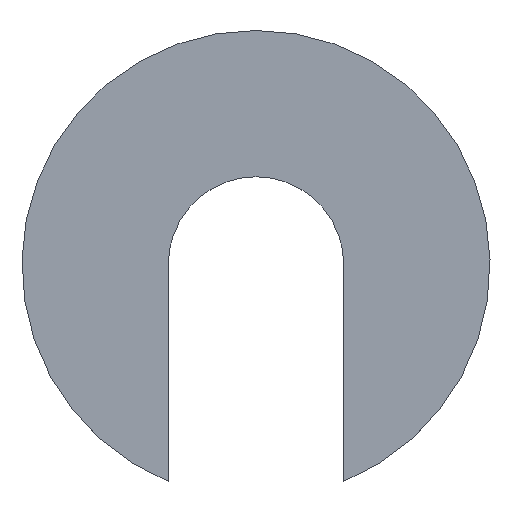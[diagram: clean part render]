
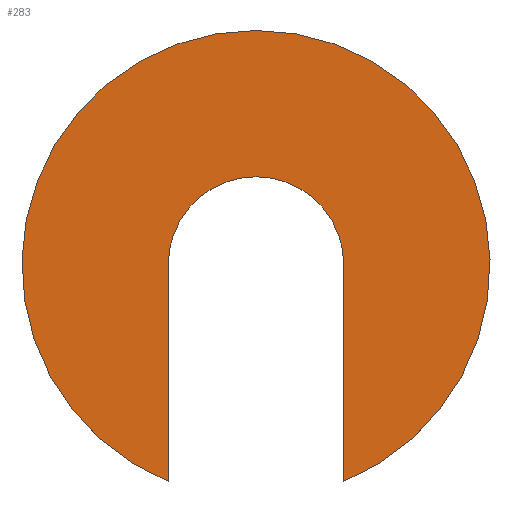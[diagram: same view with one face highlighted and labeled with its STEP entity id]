
A CAD part, top view. The second image highlights one B-rep face of the part: STEP entity #283.
In plain terms, the highlighted planar face has unit normal (0, 0, 1).
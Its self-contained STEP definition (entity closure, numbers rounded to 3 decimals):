
#33 = CYLINDRICAL_SURFACE('',#34,3.2);
#34 = AXIS2_PLACEMENT_3D('',#35,#36,#37);
#35 = CARTESIAN_POINT('',(84.75,13.,-6.));
#36 = DIRECTION('',(0.,0.,1.));
#37 = DIRECTION('',(1.,0.,-0.));
#58 = VERTEX_POINT('',#59);
#59 = CARTESIAN_POINT('',(83.55,10.034,-5.8));
#72 = PLANE('',#73);
#73 = AXIS2_PLACEMENT_3D('',#74,#75,#76);
#74 = CARTESIAN_POINT('',(83.55,8.8,-7.));
#75 = DIRECTION('',(1.,0.,-0.));
#76 = DIRECTION('',(0.,0.,1.));
#83 = EDGE_CURVE('',#58,#84,#86,.T.);
#84 = VERTEX_POINT('',#85);
#85 = CARTESIAN_POINT('',(85.95,10.034,-5.8));
#86 = SURFACE_CURVE('',#87,(#92,#99),.PCURVE_S1.);
#87 = CIRCLE('',#88,3.2);
#88 = AXIS2_PLACEMENT_3D('',#89,#90,#91);
#89 = CARTESIAN_POINT('',(84.75,13.,-5.8));
#90 = DIRECTION('',(-0.,0.,-1.));
#91 = DIRECTION('',(-0.375,-0.927,0.));
#92 = PCURVE('',#33,#93);
#93 = DEFINITIONAL_REPRESENTATION('',(#94),#98);
#94 = LINE('',#95,#96);
#95 = CARTESIAN_POINT('',(10.611,0.2));
#96 = VECTOR('',#97,1.);
#97 = DIRECTION('',(-1.,-0.));
#98 = ( GEOMETRIC_REPRESENTATION_CONTEXT(2) 
PARAMETRIC_REPRESENTATION_CONTEXT() REPRESENTATION_CONTEXT('2D SPACE',''
  ) );
#99 = PCURVE('',#100,#105);
#100 = PLANE('',#101);
#101 = AXIS2_PLACEMENT_3D('',#102,#103,#104);
#102 = CARTESIAN_POINT('',(84.75,13.,-5.8));
#103 = DIRECTION('',(0.,0.,1.));
#104 = DIRECTION('',(1.,0.,-0.));
#105 = DEFINITIONAL_REPRESENTATION('',(#106),#114);
#106 = ( BOUNDED_CURVE() B_SPLINE_CURVE(2,(#107,#108,#109,#110,#111,#112
,#113),.UNSPECIFIED.,.T.,.F.) B_SPLINE_CURVE_WITH_KNOTS((1,2,2,2,2,1),(
    -2.094,0.,2.094,4.189,6.283,
8.378),.UNSPECIFIED.) CURVE() GEOMETRIC_REPRESENTATION_ITEM() 
RATIONAL_B_SPLINE_CURVE((1.,0.5,1.,0.5,1.,0.5,1.)) REPRESENTATION_ITEM(
  '') );
#107 = CARTESIAN_POINT('',(-1.2,-2.966));
#108 = CARTESIAN_POINT('',(-6.338,-0.888));
#109 = CARTESIAN_POINT('',(-1.969,2.522));
#110 = CARTESIAN_POINT('',(2.4,5.933));
#111 = CARTESIAN_POINT('',(3.169,0.444));
#112 = CARTESIAN_POINT('',(3.938,-5.045));
#113 = CARTESIAN_POINT('',(-1.2,-2.966));
#114 = ( GEOMETRIC_REPRESENTATION_CONTEXT(2) 
PARAMETRIC_REPRESENTATION_CONTEXT() REPRESENTATION_CONTEXT('2D SPACE',''
  ) );
#129 = PLANE('',#130);
#130 = AXIS2_PLACEMENT_3D('',#131,#132,#133);
#131 = CARTESIAN_POINT('',(85.95,8.8,-7.));
#132 = DIRECTION('',(1.,0.,-0.));
#133 = DIRECTION('',(0.,0.,1.));
#146 = VERTEX_POINT('',#147);
#147 = CARTESIAN_POINT('',(85.95,13.,-5.8));
#161 = CYLINDRICAL_SURFACE('',#162,1.2);
#162 = AXIS2_PLACEMENT_3D('',#163,#164,#165);
#163 = CARTESIAN_POINT('',(84.75,13.,-7.));
#164 = DIRECTION('',(0.,0.,1.));
#165 = DIRECTION('',(1.,0.,-0.));
#172 = EDGE_CURVE('',#84,#146,#173,.T.);
#173 = SURFACE_CURVE('',#174,(#178,#184),.PCURVE_S1.);
#174 = LINE('',#175,#176);
#175 = CARTESIAN_POINT('',(85.95,10.9,-5.8));
#176 = VECTOR('',#177,1.);
#177 = DIRECTION('',(-0.,1.,0.));
#178 = PCURVE('',#129,#179);
#179 = DEFINITIONAL_REPRESENTATION('',(#180),#183);
#180 = B_SPLINE_CURVE_WITH_KNOTS('',1,(#181,#182),.UNSPECIFIED.,.F.,.F.,
  (2,2),(-1.1,2.1),.PIECEWISE_BEZIER_KNOTS.);
#181 = CARTESIAN_POINT('',(1.2,-1.));
#182 = CARTESIAN_POINT('',(1.2,-4.2));
#183 = ( GEOMETRIC_REPRESENTATION_CONTEXT(2) 
PARAMETRIC_REPRESENTATION_CONTEXT() REPRESENTATION_CONTEXT('2D SPACE',''
  ) );
#184 = PCURVE('',#100,#185);
#185 = DEFINITIONAL_REPRESENTATION('',(#186),#189);
#186 = B_SPLINE_CURVE_WITH_KNOTS('',1,(#187,#188),.UNSPECIFIED.,.F.,.F.,
  (2,2),(-1.1,2.1),.PIECEWISE_BEZIER_KNOTS.);
#187 = CARTESIAN_POINT('',(1.2,-3.2));
#188 = CARTESIAN_POINT('',(1.2,0.));
#189 = ( GEOMETRIC_REPRESENTATION_CONTEXT(2) 
PARAMETRIC_REPRESENTATION_CONTEXT() REPRESENTATION_CONTEXT('2D SPACE',''
  ) );
#214 = EDGE_CURVE('',#146,#215,#217,.T.);
#215 = VERTEX_POINT('',#216);
#216 = CARTESIAN_POINT('',(83.55,13.,-5.8));
#217 = SURFACE_CURVE('',#218,(#223,#230),.PCURVE_S1.);
#218 = CIRCLE('',#219,1.2);
#219 = AXIS2_PLACEMENT_3D('',#220,#221,#222);
#220 = CARTESIAN_POINT('',(84.75,13.,-5.8));
#221 = DIRECTION('',(0.,0.,1.));
#222 = DIRECTION('',(1.,0.,-0.));
#223 = PCURVE('',#161,#224);
#224 = DEFINITIONAL_REPRESENTATION('',(#225),#229);
#225 = LINE('',#226,#227);
#226 = CARTESIAN_POINT('',(0.,1.2));
#227 = VECTOR('',#228,1.);
#228 = DIRECTION('',(1.,0.));
#229 = ( GEOMETRIC_REPRESENTATION_CONTEXT(2) 
PARAMETRIC_REPRESENTATION_CONTEXT() REPRESENTATION_CONTEXT('2D SPACE',''
  ) );
#230 = PCURVE('',#100,#231);
#231 = DEFINITIONAL_REPRESENTATION('',(#232),#236);
#232 = CIRCLE('',#233,1.2);
#233 = AXIS2_PLACEMENT_2D('',#234,#235);
#234 = CARTESIAN_POINT('',(0.,0.));
#235 = DIRECTION('',(1.,0.));
#236 = ( GEOMETRIC_REPRESENTATION_CONTEXT(2) 
PARAMETRIC_REPRESENTATION_CONTEXT() REPRESENTATION_CONTEXT('2D SPACE',''
  ) );
#283 = ADVANCED_FACE('',(#284),#100,.T.);
#284 = FACE_BOUND('',#285,.T.);
#285 = EDGE_LOOP('',(#286,#287,#288,#307));
#286 = ORIENTED_EDGE('',*,*,#172,.F.);
#287 = ORIENTED_EDGE('',*,*,#83,.F.);
#288 = ORIENTED_EDGE('',*,*,#289,.T.);
#289 = EDGE_CURVE('',#58,#215,#290,.T.);
#290 = SURFACE_CURVE('',#291,(#295,#301),.PCURVE_S1.);
#291 = LINE('',#292,#293);
#292 = CARTESIAN_POINT('',(83.55,10.9,-5.8));
#293 = VECTOR('',#294,1.);
#294 = DIRECTION('',(-0.,1.,0.));
#295 = PCURVE('',#100,#296);
#296 = DEFINITIONAL_REPRESENTATION('',(#297),#300);
#297 = B_SPLINE_CURVE_WITH_KNOTS('',1,(#298,#299),.UNSPECIFIED.,.F.,.F.,
  (2,2),(-1.1,2.1),.PIECEWISE_BEZIER_KNOTS.);
#298 = CARTESIAN_POINT('',(-1.2,-3.2));
#299 = CARTESIAN_POINT('',(-1.2,0.));
#300 = ( GEOMETRIC_REPRESENTATION_CONTEXT(2) 
PARAMETRIC_REPRESENTATION_CONTEXT() REPRESENTATION_CONTEXT('2D SPACE',''
  ) );
#301 = PCURVE('',#72,#302);
#302 = DEFINITIONAL_REPRESENTATION('',(#303),#306);
#303 = B_SPLINE_CURVE_WITH_KNOTS('',1,(#304,#305),.UNSPECIFIED.,.F.,.F.,
  (2,2),(-1.1,2.1),.PIECEWISE_BEZIER_KNOTS.);
#304 = CARTESIAN_POINT('',(1.2,-1.));
#305 = CARTESIAN_POINT('',(1.2,-4.2));
#306 = ( GEOMETRIC_REPRESENTATION_CONTEXT(2) 
PARAMETRIC_REPRESENTATION_CONTEXT() REPRESENTATION_CONTEXT('2D SPACE',''
  ) );
#307 = ORIENTED_EDGE('',*,*,#214,.F.);
